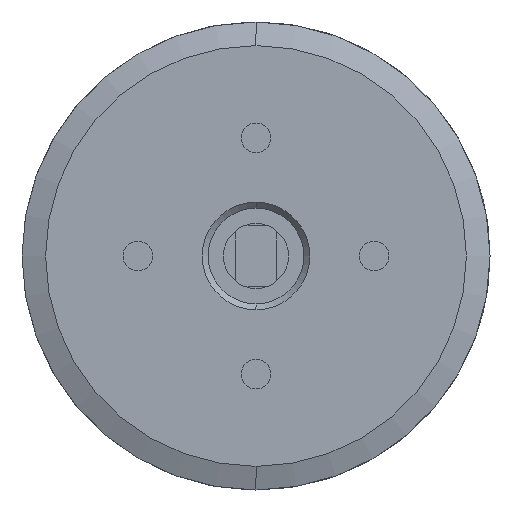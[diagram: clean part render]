
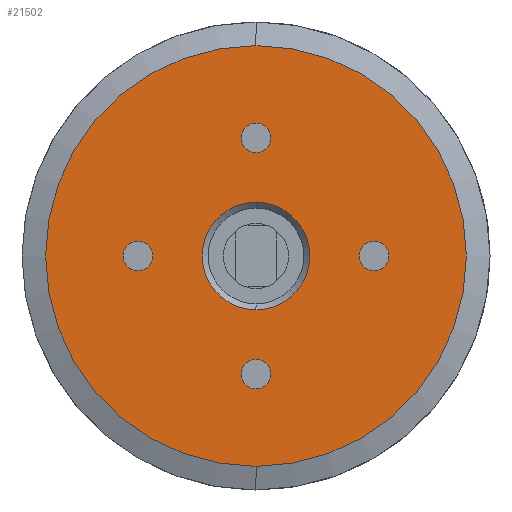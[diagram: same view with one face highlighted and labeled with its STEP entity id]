
A CAD part, left-side view. The second image highlights one B-rep face of the part: STEP entity #21502.
In plain terms, the highlighted planar face has unit normal (-1, 0, 0).
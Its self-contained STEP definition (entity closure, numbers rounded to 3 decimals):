
#277 = ORIENTED_EDGE ( 'NONE', *, *, #18781, .F. ) ;
#304 = FACE_OUTER_BOUND ( 'NONE', #19994, .T. ) ;
#371 = AXIS2_PLACEMENT_3D ( 'NONE', #41445, #41924, #3440 ) ;
#942 = CIRCLE ( 'NONE', #7296, 17.8 ) ;
#1926 = CARTESIAN_POINT ( 'NONE',  ( 0., 0., 10. ) ) ;
#2435 = EDGE_LOOP ( 'NONE', ( #35962, #24299 ) ) ;
#3071 = EDGE_CURVE ( 'NONE', #5068, #19831, #21792, .T. ) ;
#3182 = CARTESIAN_POINT ( 'NONE',  ( 0., -10., -1.25 ) ) ;
#3440 = DIRECTION ( 'NONE',  ( 0., 0., 1. ) ) ;
#3937 = AXIS2_PLACEMENT_3D ( 'NONE', #24715, #24205, #23710 ) ;
#5068 = VERTEX_POINT ( 'NONE', #14552 ) ;
#5560 = CARTESIAN_POINT ( 'NONE',  ( 0., 0., -8.75 ) ) ;
#5629 = ORIENTED_EDGE ( 'NONE', *, *, #21791, .T. ) ;
#5869 = EDGE_LOOP ( 'NONE', ( #277, #11397 ) ) ;
#6068 = DIRECTION ( 'NONE',  ( 1., 0., 0. ) ) ;
#6404 = VERTEX_POINT ( 'NONE', #20952 ) ;
#7262 = FACE_BOUND ( 'NONE', #26468, .T. ) ;
#7296 = AXIS2_PLACEMENT_3D ( 'NONE', #26882, #11948, #37823 ) ;
#7578 = EDGE_CURVE ( 'NONE', #25779, #6404, #7728, .T. ) ;
#7728 = CIRCLE ( 'NONE', #44202, 1.25 ) ;
#7881 = CARTESIAN_POINT ( 'NONE',  ( 0., 0., 17.8 ) ) ;
#7922 = EDGE_CURVE ( 'NONE', #19831, #5068, #8470, .T. ) ;
#8470 = CIRCLE ( 'NONE', #45712, 1.25 ) ;
#9488 = CARTESIAN_POINT ( 'NONE',  ( 0., 0., -17.8 ) ) ;
#9542 = VERTEX_POINT ( 'NONE', #3182 ) ;
#9675 = VERTEX_POINT ( 'NONE', #5560 ) ;
#10514 = DIRECTION ( 'NONE',  ( 0., 0., -1. ) ) ;
#10576 = CARTESIAN_POINT ( 'NONE',  ( 0., 0., 0. ) ) ;
#11064 = DIRECTION ( 'NONE',  ( 1., 0., 0. ) ) ;
#11118 = VERTEX_POINT ( 'NONE', #41459 ) ;
#11397 = ORIENTED_EDGE ( 'NONE', *, *, #16350, .F. ) ;
#11582 = ORIENTED_EDGE ( 'NONE', *, *, #23698, .T. ) ;
#11646 = AXIS2_PLACEMENT_3D ( 'NONE', #38748, #15851, #42477 ) ;
#11875 = ORIENTED_EDGE ( 'NONE', *, *, #16202, .F. ) ;
#11948 = DIRECTION ( 'NONE',  ( -1., 0., 0. ) ) ;
#12116 = ORIENTED_EDGE ( 'NONE', *, *, #3071, .F. ) ;
#12710 = CIRCLE ( 'NONE', #26236, 1.25 ) ;
#13436 = VERTEX_POINT ( 'NONE', #7881 ) ;
#13508 = AXIS2_PLACEMENT_3D ( 'NONE', #44916, #15094, #30274 ) ;
#13532 = CIRCLE ( 'NONE', #25489, 1.25 ) ;
#14552 = CARTESIAN_POINT ( 'NONE',  ( 0., 10., 1.25 ) ) ;
#15094 = DIRECTION ( 'NONE',  ( -1., 0., 0. ) ) ;
#15384 = CARTESIAN_POINT ( 'NONE',  ( 0., 0., 10. ) ) ;
#15851 = DIRECTION ( 'NONE',  ( -1., 0., 0. ) ) ;
#16202 = EDGE_CURVE ( 'NONE', #6404, #25779, #12710, .T. ) ;
#16321 = ORIENTED_EDGE ( 'NONE', *, *, #16720, .F. ) ;
#16350 = EDGE_CURVE ( 'NONE', #9542, #27754, #13532, .T. ) ;
#16425 = CIRCLE ( 'NONE', #18040, 4.55 ) ;
#16720 = EDGE_CURVE ( 'NONE', #9675, #47379, #45329, .T. ) ;
#16778 = CARTESIAN_POINT ( 'NONE',  ( 0., 10., 0. ) ) ;
#17037 = DIRECTION ( 'NONE',  ( -1., 0., 0. ) ) ;
#17381 = CIRCLE ( 'NONE', #3937, 17.8 ) ;
#18040 = AXIS2_PLACEMENT_3D ( 'NONE', #24949, #6068, #10514 ) ;
#18314 = ORIENTED_EDGE ( 'NONE', *, *, #34698, .F. ) ;
#18781 = EDGE_CURVE ( 'NONE', #27754, #9542, #45230, .T. ) ;
#19831 = VERTEX_POINT ( 'NONE', #48352 ) ;
#19994 = EDGE_LOOP ( 'NONE', ( #5629, #11582 ) ) ;
#20952 = CARTESIAN_POINT ( 'NONE',  ( 0., 0., 11.25 ) ) ;
#21502 = ADVANCED_FACE ( 'NONE', ( #304, #26378, #41286, #37570, #7262, #41534 ), #33364, .F. ) ;
#21533 = AXIS2_PLACEMENT_3D ( 'NONE', #32102, #35110, #27411 ) ;
#21791 = EDGE_CURVE ( 'NONE', #43409, #13436, #17381, .T. ) ;
#21792 = CIRCLE ( 'NONE', #371, 1.25 ) ;
#22052 = ORIENTED_EDGE ( 'NONE', *, *, #7922, .F. ) ;
#22502 = DIRECTION ( 'NONE',  ( -1., 0., 0. ) ) ;
#23596 = AXIS2_PLACEMENT_3D ( 'NONE', #10576, #11064, #33705 ) ;
#23698 = EDGE_CURVE ( 'NONE', #13436, #43409, #942, .T. ) ;
#23710 = DIRECTION ( 'NONE',  ( 0., 0., -1. ) ) ;
#24076 = DIRECTION ( 'NONE',  ( -1., 0., 0. ) ) ;
#24205 = DIRECTION ( 'NONE',  ( -1., 0., 0. ) ) ;
#24299 = ORIENTED_EDGE ( 'NONE', *, *, #38370, .T. ) ;
#24340 = CARTESIAN_POINT ( 'NONE',  ( 0., 19.8, 0. ) ) ;
#24715 = CARTESIAN_POINT ( 'NONE',  ( 0., 0., 0. ) ) ;
#24949 = CARTESIAN_POINT ( 'NONE',  ( 0., 0., 0. ) ) ;
#25489 = AXIS2_PLACEMENT_3D ( 'NONE', #26741, #22502, #41901 ) ;
#25779 = VERTEX_POINT ( 'NONE', #38210 ) ;
#26236 = AXIS2_PLACEMENT_3D ( 'NONE', #1926, #17037, #32219 ) ;
#26378 = FACE_BOUND ( 'NONE', #47049, .T. ) ;
#26468 = EDGE_LOOP ( 'NONE', ( #11875, #43681 ) ) ;
#26741 = CARTESIAN_POINT ( 'NONE',  ( 0., -10., 0. ) ) ;
#26882 = CARTESIAN_POINT ( 'NONE',  ( 0., 0., 0. ) ) ;
#27411 = DIRECTION ( 'NONE',  ( 0., 0., 1. ) ) ;
#27523 = CIRCLE ( 'NONE', #11646, 1.25 ) ;
#27754 = VERTEX_POINT ( 'NONE', #36338 ) ;
#30274 = DIRECTION ( 'NONE',  ( 0., 0., 1. ) ) ;
#30820 = DIRECTION ( 'NONE',  ( 0., 0., 1. ) ) ;
#31062 = DIRECTION ( 'NONE',  ( 1., 0., 0. ) ) ;
#32102 = CARTESIAN_POINT ( 'NONE',  ( 0., 0., -10. ) ) ;
#32219 = DIRECTION ( 'NONE',  ( 0., 0., 1. ) ) ;
#33364 = PLANE ( 'NONE',  #35649 ) ;
#33705 = DIRECTION ( 'NONE',  ( 0., 0., -1. ) ) ;
#34698 = EDGE_CURVE ( 'NONE', #47379, #9675, #27523, .T. ) ;
#35110 = DIRECTION ( 'NONE',  ( -1., 0., 0. ) ) ;
#35649 = AXIS2_PLACEMENT_3D ( 'NONE', #24340, #31062, #46216 ) ;
#35878 = EDGE_CURVE ( 'NONE', #11118, #48482, #16425, .T. ) ;
#35962 = ORIENTED_EDGE ( 'NONE', *, *, #35878, .T. ) ;
#36338 = CARTESIAN_POINT ( 'NONE',  ( 0., -10., 1.25 ) ) ;
#37570 = FACE_BOUND ( 'NONE', #5869, .T. ) ;
#37823 = DIRECTION ( 'NONE',  ( 0., 0., -1. ) ) ;
#38210 = CARTESIAN_POINT ( 'NONE',  ( 0., 0., 8.75 ) ) ;
#38370 = EDGE_CURVE ( 'NONE', #48482, #11118, #44264, .T. ) ;
#38748 = CARTESIAN_POINT ( 'NONE',  ( 0., 0., -10. ) ) ;
#40155 = DIRECTION ( 'NONE',  ( -1., 0., 0. ) ) ;
#41286 = FACE_BOUND ( 'NONE', #44425, .T. ) ;
#41445 = CARTESIAN_POINT ( 'NONE',  ( 0., 10., 0. ) ) ;
#41459 = CARTESIAN_POINT ( 'NONE',  ( 0., 0., 4.55 ) ) ;
#41534 = FACE_BOUND ( 'NONE', #2435, .T. ) ;
#41755 = CARTESIAN_POINT ( 'NONE',  ( 0., 0., -11.25 ) ) ;
#41901 = DIRECTION ( 'NONE',  ( 0., 0., 1. ) ) ;
#41924 = DIRECTION ( 'NONE',  ( -1., 0., 0. ) ) ;
#42477 = DIRECTION ( 'NONE',  ( 0., 0., 1. ) ) ;
#43409 = VERTEX_POINT ( 'NONE', #9488 ) ;
#43681 = ORIENTED_EDGE ( 'NONE', *, *, #7578, .F. ) ;
#44202 = AXIS2_PLACEMENT_3D ( 'NONE', #15384, #24076, #30820 ) ;
#44264 = CIRCLE ( 'NONE', #23596, 4.55 ) ;
#44425 = EDGE_LOOP ( 'NONE', ( #16321, #18314 ) ) ;
#44916 = CARTESIAN_POINT ( 'NONE',  ( 0., -10., 0. ) ) ;
#45230 = CIRCLE ( 'NONE', #13508, 1.25 ) ;
#45329 = CIRCLE ( 'NONE', #21533, 1.25 ) ;
#45712 = AXIS2_PLACEMENT_3D ( 'NONE', #16778, #40155, #46852 ) ;
#46216 = DIRECTION ( 'NONE',  ( 0., 0., -1. ) ) ;
#46580 = CARTESIAN_POINT ( 'NONE',  ( 0., 0., -4.55 ) ) ;
#46852 = DIRECTION ( 'NONE',  ( 0., 0., 1. ) ) ;
#47049 = EDGE_LOOP ( 'NONE', ( #12116, #22052 ) ) ;
#47379 = VERTEX_POINT ( 'NONE', #41755 ) ;
#48352 = CARTESIAN_POINT ( 'NONE',  ( 0., 10., -1.25 ) ) ;
#48482 = VERTEX_POINT ( 'NONE', #46580 ) ;
